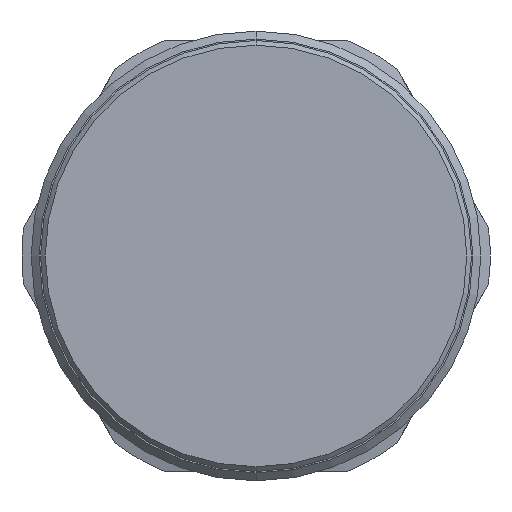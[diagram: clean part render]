
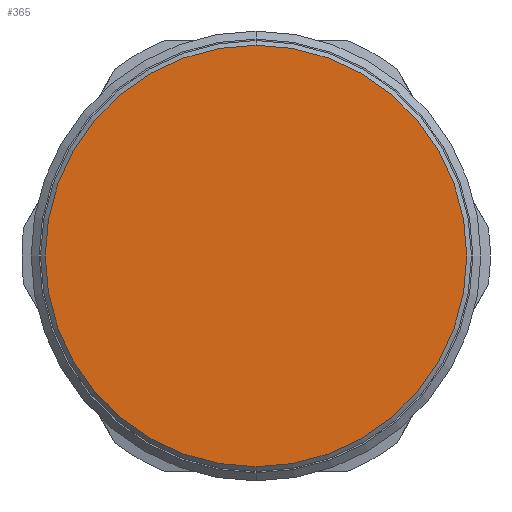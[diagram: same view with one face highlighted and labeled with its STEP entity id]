
A CAD part, front view. The second image highlights one B-rep face of the part: STEP entity #365.
In plain terms, the highlighted planar face has unit normal (0, -1, 0).
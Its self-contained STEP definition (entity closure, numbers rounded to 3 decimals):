
#340=CARTESIAN_POINT('',(0.0,-62.0,22.5));
#341=VERTEX_POINT('',#340);
#342=CARTESIAN_POINT('',(0.0,-62.0,-22.5));
#343=VERTEX_POINT('',#342);
#344=CARTESIAN_POINT('',(0.0,-62.0,0.0));
#345=DIRECTION('',(0.0,-1.0,0.0));
#346=DIRECTION('',(0.0,0.0,1.0));
#347=AXIS2_PLACEMENT_3D('',#344,#345,#346);
#348=CIRCLE('',#347,22.5);
#349=EDGE_CURVE('no 2260',#341,#343,#348,.T.);
#350=ORIENTED_EDGE('',*,*,#349,.T.);
#351=CARTESIAN_POINT('',(0.0,-62.0,0.0));
#352=DIRECTION('',(0.0,-1.0,0.0));
#353=DIRECTION('',(0.0,0.0,1.0));
#354=AXIS2_PLACEMENT_3D('',#351,#352,#353);
#355=CIRCLE('',#354,22.5);
#356=EDGE_CURVE('no 2264',#343,#341,#355,.T.);
#357=ORIENTED_EDGE('',*,*,#356,.T.);
#358=EDGE_LOOP('',(#350,#357));
#359=FACE_OUTER_BOUND('',#358,.T.);
#360=CARTESIAN_POINT('',(0.0,-62.0,0.0));
#361=DIRECTION('',(0.0,1.0,0.0));
#362=DIRECTION('',(0.0,0.0,1.0));
#363=AXIS2_PLACEMENT_3D('',#360,#361,#362);
#364=PLANE('',#363);
#365=ADVANCED_FACE('no 2251',(#359),#364,.F.);
